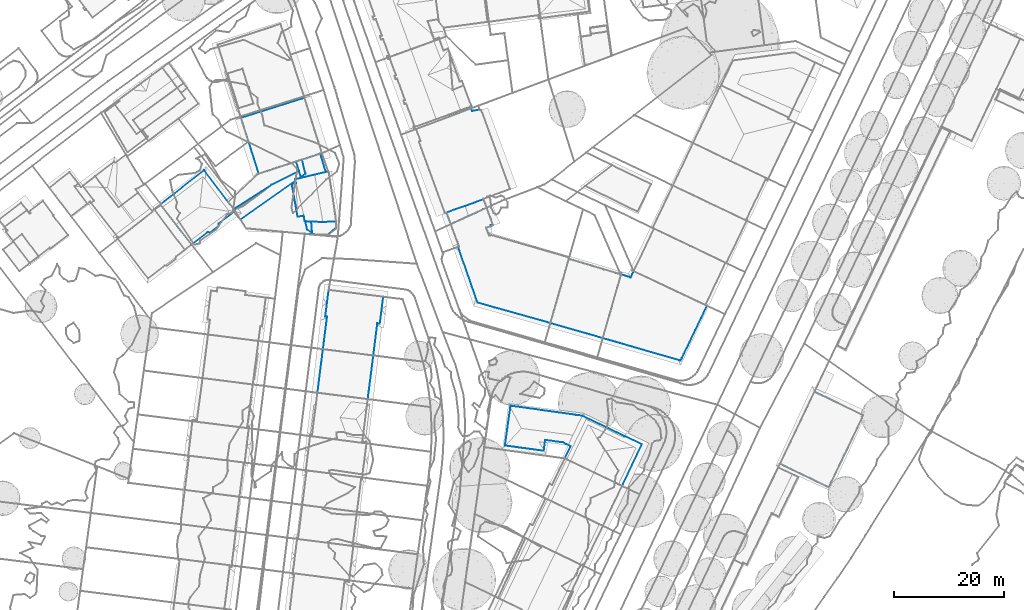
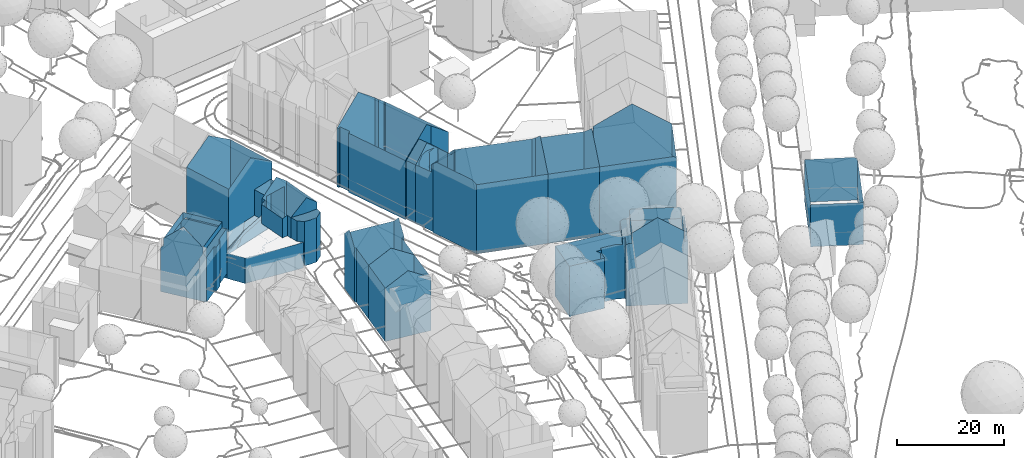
# Not in any storey, part 36 of 494: 11 walls.
"""IFC2X3 model written with IfcOpenShell, lengths in metres."""

from ifc_helpers import new_model, si_unit, frame, origin_with_axes, place, context, subcontext, project, faceted_brep, element, save


model = new_model("IFC2X3")

# Units and contexts
model_context = context("Model", 3, precision=1e-05, world=origin_with_axes())
body_context = subcontext(model_context, "Body", "Model", "MODEL_VIEW")
ifc_project = project(units=[si_unit("AREAUNIT", "SQUARE_METRE"), si_unit("LENGTHUNIT", "METRE")], contexts=[model_context])

# Walls
wall_1_placement = place(None, frame((497.3297320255, 81.7703160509, 498.9665), z_axis=(0.0, 0.0, 1.0), x_axis=(1.0, 0.0, 0.0)))
element("IfcWall", 1, at=wall_1_placement, Name="Wall 0", context=body_context, shape_type="Brep", body=[
    faceted_brep([(21.7360000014, 1.4785000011, 14.2666), (21.8530000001, 1.7226999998, 14.2666), (21.8530000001, 1.7226999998, 14.0236), (24.9849999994, 0.2266000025, 14.2666), (21.3509999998, -7.369099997, 14.2666), (24.9849999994, 0.2266000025, 0.0), (10.9070000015, -2.3632999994, 13.9726), (11.4790000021, -1.1688999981, 13.9696), (11.3340000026, -1.4706999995, 5.5295), (10.9070000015, -2.3632999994, 0.0), (11.9830000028, -0.1132999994, 10.473), (11.9830000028, -0.1132999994, 13.9666), (11.9830000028, -0.1132999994, 3.4866), (11.9830000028, -0.1132999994, 0.0), (10.9480000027, -2.369099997, 14.0036), (10.9480000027, -2.369099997, 0.0), (0.9920000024, 6.9688000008, 11.5129), (1.0340000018, 7.2675999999, 11.3719), (0.9920000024, 6.9697000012, 0.0), (7.3410000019, 1.0186000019, 0.0), (7.3410000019, 1.0186000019, 12.4818), (7.319000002, 0.8516000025, 0.0), (7.3120000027, 0.8008000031, 9.2661), (7.2840000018, 0.5957000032, 12.2968), (7.3120000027, 0.8008000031, 3.0257), (11.5150000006, 0.1104000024, 12.3228), (11.5160000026, 0.1104000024, 13.5567), (12.3940000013, 1.9346000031, 13.1607), (14.0810000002, 5.4346000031, 13.5567), (14.0810000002, 5.4346000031, 11.4409), (23.9020000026, -0.3983999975, 16.6274), (21.932, -4.4891999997, 16.6284), (23.9020000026, -0.3983999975, 14.2666), (20.6960000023, -7.0546999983, 14.2666), (13.5439999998, 0.5244000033, 16.6474), (15.1330000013, 3.8252000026, 16.6474), (11.9240000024, -2.8388999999, 14.2666), (10.5109999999, 0.5908000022, 12.4738), (11.5160000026, 0.1104000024, 0.0), (10.5109999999, 0.5908000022, 0.0), (12.9900000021, 5.6045000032, 11.4279), (12.9900000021, 5.6045000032, 0.0), (1.0340000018, 7.2675999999, 0.0), (14.0270000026, 5.4600000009, 0.0), (14.0270000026, 5.4600000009, 11.4319), (14.6390000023, 5.1670000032, 0.0), (21.8530000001, 1.7226999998, 0.0), (14.6390000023, 5.1670000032, 14.0466), (9.7280000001, 0.6963, 12.4758), (9.7280000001, 0.6963, 0.0), (16.2129999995, -4.8993999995, 19.9271), (11.9240000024, -2.8388999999, 16.6474), (20.6960000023, -7.0546999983, 16.6284), (21.3509999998, -7.369099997, 0.0), (16.2129999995, -4.8993999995, 0.0), (11.9240000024, -2.8388999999, 0.0), (11.2479999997, -2.5136999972, 14.2666), (11.2479999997, -2.5136999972, 0.0), (20.6960000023, -7.0546999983, 0.0), (15.4460000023, 3.6748000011, 16.8864), (15.1330000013, 3.8252000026, 14.2666), (21.5340000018, 0.7432000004, 16.8864), (21.5329999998, 0.7432000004, 14.2666), (23.5510000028, -0.2294999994, 16.8863), (6.2120000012, 0.7344000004, 12.2968), (7.2840000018, 0.5957000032, 11.5619), (0.0, 0.0, 11.4509), (0.2730000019, 1.9199000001, 11.4679), (0.0, 0.0, 8.5732), (0.5650000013, 3.9726999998, 0.0), (7.0950000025, -0.8056999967, 11.5669), (7.075000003, -0.9530999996, 11.4809), (7.075000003, -0.9530999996, 0.0), (6.9140000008, -0.931599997, 11.4689), (0.0540000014, -0.0067999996, 11.4879), (6.9140000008, -0.931599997, 0.0), (0.0, 0.0, 5.6944), (0.0540000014, -0.0067999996, 0.0), (0.0, 0.0, 0.0)], [[[0, 1, 2]], [[3, 4, 5]], [[6, 7, 8]], [[6, 8, 9]], [[10, 8, 11]], [[12, 8, 10]], [[12, 13, 8]], [[8, 13, 9]], [[14, 6, 15]], [[16, 17, 18]], [[19, 20, 21]], [[22, 20, 23]], [[24, 20, 22]], [[24, 21, 20]], [[25, 26, 27]], [[27, 28, 29]], [[28, 27, 26]], [[30, 31, 32]], [[31, 33, 32]], [[34, 35, 36]], [[11, 26, 25]], [[25, 37, 10]], [[10, 37, 12]], [[25, 10, 11]], [[12, 38, 13]], [[38, 12, 39]], [[37, 39, 12]], [[40, 41, 42]], [[40, 43, 41]], [[43, 40, 44]], [[40, 42, 17]], [[45, 29, 46]], [[44, 29, 45]], [[43, 44, 45]], [[29, 28, 47]], [[2, 1, 3]], [[2, 46, 29]], [[2, 5, 46]], [[5, 2, 3]], [[2, 29, 47]], [[37, 48, 49]], [[49, 39, 37]], [[48, 20, 49]], [[49, 20, 19]], [[33, 50, 51]], [[52, 50, 33]], [[4, 33, 53]], [[51, 36, 33]], [[33, 36, 54]], [[36, 14, 55]], [[14, 36, 56]], [[57, 14, 15]], [[53, 33, 58]], [[55, 54, 36]], [[57, 55, 14]], [[33, 54, 58]], [[35, 59, 60]], [[60, 59, 61]], [[61, 62, 60]], [[63, 30, 62]], [[63, 62, 61]], [[30, 32, 62]], [[23, 64, 65]], [[66, 67, 68]], [[69, 68, 67]], [[18, 69, 16]], [[67, 16, 69]], [[70, 22, 65]], [[22, 70, 71]], [[22, 71, 24]], [[65, 22, 23]], [[72, 24, 71]], [[24, 72, 21]], [[68, 73, 74]], [[71, 73, 72]], [[75, 72, 73]], [[74, 66, 68]], [[76, 75, 73]], [[76, 77, 75]], [[77, 76, 78]], [[76, 73, 68]], [[4, 53, 5]], [[8, 7, 11]], [[6, 9, 15]], [[18, 17, 42]], [[52, 33, 31]], [[34, 36, 51]], [[35, 60, 36]], [[76, 68, 69]], [[69, 78, 76]]]),
])
wall_2_placement = place(None, frame((547.5007320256, 78.432416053, 499.3594), z_axis=(0.0, 0.0, 1.0), x_axis=(1.0, 0.0, 0.0)))
element("IfcWall", 2, at=wall_2_placement, Name="Wall 0", context=body_context, shape_type="Brep", body=[
    faceted_brep([(6.2900000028, 13.1523999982, 0.0), (6.2900000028, 13.1523999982, 9.6691), (6.3900000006, 13.1044999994, 9.7081), (0.0, 0.0, 9.5861), (1.5730000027, 3.2881000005, 9.6061), (4.7170000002, 9.8642999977, 9.6481), (9.6669999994, 11.5263999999, 0.0), (9.3850000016, 11.6620999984, 9.7341), (12.2080000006, 10.3037, 5.7864), (14.4840000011, 9.2071000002, 9.7791), (15.2149999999, 8.8554999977, 0.0), (15.2149999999, 8.8554999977, 9.4971), (12.0580000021, 2.2831999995, 9.5441), (12.6610000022, 3.5390999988, 0.0), (8.9290000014, -4.2294999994, 9.5901), (8.9040000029, -4.2802000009, 0.0), (8.9040000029, -4.2802000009, 9.5661), (4.4020000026, -2.1152000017, 9.6051), (0.1460000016, -0.0692999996, 9.6421), (0.0, 0.0, 0.0), (3.1449999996, 6.5762000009, 9.6271)], [[[0, 1, 2]], [[0, 3, 4]], [[0, 5, 1]], [[6, 7, 8]], [[2, 6, 0]], [[8, 7, 9]], [[10, 6, 8]], [[11, 10, 8]], [[10, 11, 12]], [[12, 13, 10]], [[14, 15, 12]], [[12, 15, 13]], [[16, 17, 15]], [[17, 18, 19]], [[3, 19, 18]], [[20, 0, 4]], [[19, 3, 0]], [[0, 20, 5]], [[7, 6, 2]], [[9, 11, 8]], [[14, 16, 15]], [[17, 19, 15]]]),
])
wall_3_placement = place(None, frame((463.1237320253, 91.3914160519, 499.4055), z_axis=(0.0, 0.0, 1.0), x_axis=(1.0, 0.0, 0.0)))
element("IfcWall", 3, at=wall_3_placement, Name="Wall 0", context=body_context, shape_type="Brep", body=[
    faceted_brep([(1.6009999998, 7.875, 12.5998), (5.5230000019, 7.3867000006, 0.0), (1.6009999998, 7.875, 0.0), (4.5810000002, -0.5810000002, 14.9506), (3.2930000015, -0.4179999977, 14.1796), (4.5810000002, -0.5810000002, 0.0), (10.1920000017, 6.8047000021, 0.0), (9.643000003, 2.4756000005, 12.1608), (9.939000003, 4.8125, 0.0), (10.1920000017, 6.8047000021, 12.1368), (9.182, -1.1649999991, 0.0), (5.5230000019, 7.3867000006, 14.9476), (9.182, -1.1649999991, 12.1808), (0.0, 0.0, 12.1988), (0.5210000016, 4.120099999, 12.2208), (0.0, 0.0, 0.0), (0.6810000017, 5.3896999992, 0.0), (0.7589999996, 6.0058999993, 12.2308), (1.0050000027, 7.9501999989, 12.2408), (1.0050000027, 7.9501999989, 0.0), (3.2930000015, -0.4179999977, 0.0)], [[[0, 1, 2]], [[3, 4, 5]], [[6, 7, 8]], [[9, 7, 6]], [[8, 7, 10]], [[11, 9, 1]], [[10, 12, 3]], [[5, 10, 3]], [[13, 14, 15]], [[15, 14, 16]], [[17, 18, 16]], [[19, 16, 18]], [[4, 15, 20]], [[15, 4, 13]], [[18, 2, 19]], [[2, 18, 0]], [[11, 1, 0]], [[4, 20, 5]], [[12, 10, 7]], [[9, 6, 1]], [[14, 17, 16]]]),
])
wall_4_placement = place(None, frame((464.128732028, 99.3416160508, 499.4055), z_axis=(0.0, 0.0, 1.0), x_axis=(1.0, 0.0, 0.0)))
element("IfcWall", 4, at=wall_4_placement, Name="Wall 0", context=body_context, shape_type="Brep", body=[
    faceted_brep([(10.9979999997, 9.5762000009, 0.0), (1.0449999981, 10.818400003, 0.0), (1.0449999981, 10.818400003, 12.6188), (0.7520000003, 8.501000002, 0.0), (0.75, 8.4863000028, 8.0942), (0.7929999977, 8.8242000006, 14.6066), (10.9979999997, 9.5762000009, 12.6898), (10.7149999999, 7.3154000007, 14.9436), (10.7149999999, 7.3154000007, 0.0), (0.5810000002, 7.1425999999, 3.3077), (0.6289999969, 7.5234000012, 13.9677), (0.6699999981, 7.8545000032, 6.8314), (0.430999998, 5.9570000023, 0.0), (0.430999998, 5.9570000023, 12.3798), (0.75, 8.4863000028, 14.9436), (0.7479999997, 5.9170000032, 0.0), (0.7479999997, 5.9170000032, 12.3768), (0.7329999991, 5.8018000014, 0.0), (0.7339999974, 5.8096000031, 12.2678), (9.930999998, 4.7314000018, 0.0), (9.930999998, 4.7314000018, 12.2698), (9.9199999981, 4.6475000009, 12.1848), (9.9120000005, 4.5830000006, 0.0), (9.9100000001, 4.568400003, 12.1058), (10.3770000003, 4.6738000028, 12.2658), (10.3770000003, 4.6738000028, 0.0), (9.186999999, -1.1454999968, 12.1368), (9.186999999, -1.1454999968, 0.0), (4.5179999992, -0.5625, 14.9476), (4.5179999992, -0.5625, 0.0), (0.129999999, 1.0313000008, 0.0), (0.0, 0.0, 0.0), (0.0, 0.0, 12.2408), (0.1529999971, 1.2061000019, 12.2468), (0.2229999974, 1.7637000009, 4.5936), (0.5969999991, -0.0741999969, 12.5998), (0.5969999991, -0.0741999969, 0.0), (0.3019999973, 2.3877000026, 12.2528), (0.4969999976, 3.9287, 12.2598), (0.3509999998, 2.7754000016, 3.0537)], [[[0, 1, 2]], [[3, 4, 5]], [[5, 2, 3]], [[1, 3, 2]], [[0, 6, 7]], [[7, 8, 0]], [[9, 10, 11]], [[12, 13, 10]], [[12, 10, 9]], [[14, 5, 10]], [[5, 4, 10]], [[10, 4, 11]], [[11, 4, 9]], [[4, 3, 9]], [[9, 3, 12]], [[15, 16, 13]], [[13, 12, 15]], [[17, 18, 15]], [[16, 15, 18]], [[19, 20, 21]], [[19, 21, 22]], [[23, 22, 21]], [[24, 20, 25]], [[20, 19, 25]], [[8, 7, 25]], [[7, 24, 25]], [[26, 22, 23]], [[22, 26, 27]], [[27, 26, 28]], [[29, 27, 28]], [[30, 31, 32]], [[33, 34, 30]], [[35, 31, 36]], [[31, 35, 32]], [[34, 37, 17]], [[17, 37, 38]], [[38, 18, 17]], [[30, 34, 39]], [[39, 17, 30]], [[39, 34, 17]], [[28, 35, 29]], [[6, 0, 2]], [[32, 33, 30]], [[37, 34, 33]], [[35, 36, 29]]]),
])
wall_5_placement = place(None, frame((449.1887320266, 141.5721160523, 498.8726), z_axis=(0.0, 0.0, 1.0), x_axis=(1.0, 0.0, 0.0)))
element("IfcWall", 5, at=wall_5_placement, Name="Wall 0", context=body_context, shape_type="Brep", body=[
    faceted_brep([(14.7690000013, -6.4512000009, 14.8616), (11.8090000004, -7.4131000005, 16.9184), (14.7690000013, -6.4512000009, 0.0), (11.8139999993, -7.4111999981, 0.0), (9.0929999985, -8.2949000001, 0.0), (9.0549999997, -8.308600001, 18.8312), (11.5839999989, 3.6523000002, 14.8606), (12.8099999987, -0.2373000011, 14.8606), (11.5839999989, 3.6523000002, 0.0), (12.9770000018, -0.7685999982, 0.0), (5.8530000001, 1.8456999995, 18.8312), (5.8530000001, 1.8456999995, 0.0), (7.4050000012, -8.8447999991, 17.6903), (6.0689999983, -9.2782999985, 0.0), (3.2380000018, -10.1983000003, 14.8096), (3.2380000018, -10.1983000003, 0.0), (0.0, 0.0, 14.7966), (1.254999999, -3.9532000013, 14.8016), (2.0240000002, -6.3740999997, 0.0), (0.8090000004, -2.5498000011, 0.0), (0.0, 0.0, 0.0)], [[[0, 1, 2]], [[1, 3, 2]], [[1, 4, 3]], [[5, 4, 1]], [[6, 7, 8]], [[8, 7, 9]], [[2, 9, 7]], [[10, 8, 11]], [[8, 10, 6]], [[5, 12, 4]], [[12, 13, 4]], [[12, 14, 13]], [[13, 14, 15]], [[11, 16, 10]], [[15, 14, 17]], [[18, 15, 17]], [[18, 17, 19]], [[19, 17, 20]], [[20, 17, 16]], [[0, 2, 7]], [[20, 16, 11]]]),
])
wall_6_placement = place(None, frame((446.8647320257, 126.2293160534, 498.9746), z_axis=(0.0, 0.0, 1.0), x_axis=(1.0, 0.0, 0.0)))
element("IfcWall", 6, at=wall_6_placement, Name="Wall 0", context=body_context, shape_type="Brep", body=[
    faceted_brep([(19.637000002, -3.5371000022, -0.04), (19.637000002, -3.5371000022, 0.4289), (17.2440000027, -3.6895000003, 0.4289), (17.2440000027, -3.6895000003, -0.04), (15.131000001, -3.5928000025, 0.035), (15.131000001, -3.5928000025, 0.4289), (13.9420000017, -3.5371000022, 0.035), (13.9420000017, -3.5371000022, -0.04), (13.7829999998, -2.5303000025, 0.035), (18.3520000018, 5.3046999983, 11.9029), (18.2550000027, 5.5810999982, -0.04), (18.2550000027, 5.5810999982, 11.9468), (18.3520000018, 5.3046999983, 5.9094), (18.3520000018, 5.3046999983, 8.9061), (18.3520000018, 5.3046999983, 2.9127), (18.3520000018, 5.3046999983, -0.04), (12.3340000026, 3.4003999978, -0.04), (12.3340000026, 3.4003999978, 0.035), (12.2490000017, 3.8838, 0.0), (12.2490000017, 3.8838, 0.035), (12.2060000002, 4.1317999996, 0.0), (12.2060000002, 4.1317999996, -0.04), (13.7829999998, -2.5303000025, -0.04), (12.6410000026, -2.6982000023, -0.04), (12.6410000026, -2.6982000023, 0.035), (11.5960000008, 3.2714999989, 0.035), (11.5960000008, 3.2714999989, -0.04), (12.9100000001, 5.6386999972, 5.8744), (13.2910000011, 4.3905999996, 5.8744), (13.2910000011, 4.3905999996, 10.88), (12.3839999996, 7.3612999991, 10.88), (12.3839999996, 7.3612999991, 4.9995), (12.9100000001, 5.6386999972, 4.9995), (16.7880000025, 8.7919999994, 10.88), (17.8000000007, 5.4716999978, 10.88), (16.7880000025, 8.7919999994, 0.035), (13.5, -5.8047000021, 5.8744), (3.3000000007, -4.8496000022, 5.8744), (13.5, -5.8047000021, 0.035), (15.3060000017, -5.8905999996, 5.8744), (15.3060000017, -5.8905999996, 0.035), (16.5760000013, -5.9970999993, 10.556), (15.5030000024, -5.9033000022, 10.556), (16.5760000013, -5.9970999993, 0.4289), (18.1380000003, -5.9580000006, 10.556), (18.1380000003, -5.9580000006, 0.4289), (19.6750000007, -4.6504000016, 10.556), (19.6750000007, -4.6504000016, 0.4289), (15.5030000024, -5.9033000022, 0.4289), (15.2950000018, -5.7412, 5.8744), (15.2950000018, -5.7412, 0.4289), (14.3969999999, -5.0459000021, 10.556), (14.3969999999, -5.0459000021, 5.8744), (19.637000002, -3.5371000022, 10.556), (19.637000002, -3.5371000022, 12.1198), (17.2440000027, -3.6895000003, 14.0676), (17.2440000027, -3.6895000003, 10.556), (14.0300000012, -3.5419999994, 10.556), (13.9420000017, -3.5371000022, 10.556), (13.9420000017, -3.5371000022, 5.8744), (14.0300000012, -3.5419999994, 5.8744), (13.7829999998, -2.5303000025, 10.556), (12.3340000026, 3.4003999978, 10.921), (12.2060000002, 4.1317999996, 10.921), (12.3340000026, 3.4003999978, 5.8744), (12.6410000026, -2.6982000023, 10.268), (13.7829999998, -2.5303000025, 5.8744), (11.5960000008, 3.2714999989, 10.268), (12.6410000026, -2.6982000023, 5.8744), (11.5960000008, 3.2714999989, 5.8744), (7.9330000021, 3.1122999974, 5.8744), (7.9330000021, 3.1122999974, 4.9995), (0.0, 0.0, 4.9995), (5.4290000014, 5.1015999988, 4.9995), (0.0, 0.0, 0.0), (1.0080000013, -1.3076000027, 5.8744), (1.0080000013, -1.3076000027, 4.9995), (2.2300000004, -3.1816000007, 0.0), (14.074000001, 5.1688999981, 0.035), (12.8040000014, 4.2743999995, 0.035), (14.074000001, 5.1688999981, 0.0), (13.4530000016, 7.7080000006, 0.035), (13.4530000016, 7.7080000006, 0.0), (19.6130000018, -2.8115000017, 10.556), (19.6130000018, -2.8115000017, -0.04), (19.6130000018, -2.8115000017, 12.0268), (12.8040000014, 4.2743999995, 0.0), (15.7310000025, 4.9726999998, 0.035), (15.7310000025, 4.9726999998, -0.04), (17.8000000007, 5.4716999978, 0.035), (12.2060000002, 4.1317999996, 5.8744), (15.7310000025, 4.9726999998, 14.0676), (15.7310000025, 4.9726999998, 10.88), (5.4290000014, 5.1015999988, 0.0), (2.2300000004, -3.1816000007, 0.035), (3.3000000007, -4.8496000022, 0.035), (1.2600000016, -1.6699000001, 5.8744), (1.2600000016, -1.6699000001, 0.0), (1.2530000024, -1.625, 5.8744), (1.2530000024, -1.625, 0.0), (18.8470000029, 2.1182000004, 11.9148), (18.5840000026, 3.8134999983, 11.8979), (18.8470000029, 2.1182000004, -0.04), (19.0940000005, 0.5263999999, -0.04), (18.5840000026, 3.8134999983, -0.04), (19.0940000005, 0.5263999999, 11.9398), (19.3660000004, -1.2197000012, 11.9778), (19.3660000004, -1.2197000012, -0.04)], [[[0, 1, 2]], [[2, 3, 0]], [[3, 2, 4]], [[4, 2, 5]], [[4, 6, 7]], [[4, 7, 3]], [[6, 8, 7]], [[9, 10, 11]], [[12, 10, 13]], [[14, 15, 10]], [[16, 17, 18]], [[18, 17, 19]], [[18, 20, 21]], [[18, 21, 16]], [[22, 8, 23]], [[24, 23, 8]], [[24, 25, 23]], [[26, 25, 17]], [[17, 16, 26]], [[27, 28, 29]], [[27, 30, 31]], [[30, 27, 29]], [[27, 31, 32]], [[33, 34, 35]], [[36, 37, 38]], [[39, 36, 40]], [[41, 42, 43]], [[44, 41, 45]], [[46, 44, 47]], [[48, 49, 50]], [[49, 48, 42]], [[49, 51, 52]], [[51, 49, 42]], [[53, 54, 55]], [[55, 56, 53]], [[57, 56, 55]], [[57, 58, 59]], [[58, 57, 55]], [[57, 59, 60]], [[58, 61, 59]], [[62, 63, 64]], [[61, 65, 66]], [[65, 67, 68]], [[67, 64, 69]], [[50, 4, 5]], [[39, 40, 50]], [[39, 50, 49]], [[70, 27, 71]], [[51, 57, 52]], [[72, 73, 74]], [[75, 70, 76]], [[19, 77, 18]], [[78, 79, 80]], [[81, 78, 82]], [[83, 0, 84]], [[0, 83, 1]], [[83, 47, 1]], [[85, 54, 53]], [[47, 53, 46]], [[47, 83, 53]], [[53, 83, 85]], [[21, 20, 86]], [[86, 79, 87]], [[21, 86, 88]], [[87, 88, 86]], [[88, 87, 89]], [[88, 89, 10]], [[29, 28, 90]], [[29, 63, 91]], [[92, 91, 11]], [[91, 92, 29]], [[92, 11, 34]], [[10, 89, 34]], [[11, 10, 34]], [[29, 90, 63]], [[93, 31, 82]], [[30, 33, 31]], [[31, 35, 81]], [[35, 31, 33]], [[81, 82, 31]], [[94, 95, 37]], [[94, 96, 97]], [[96, 94, 37]], [[94, 97, 77]], [[96, 98, 97]], [[99, 98, 76]], [[76, 98, 75]], [[72, 74, 76]], [[100, 12, 13]], [[9, 101, 13]], [[102, 12, 103]], [[15, 14, 104]], [[102, 104, 14]], [[14, 12, 102]], [[100, 13, 101]], [[105, 103, 12]], [[106, 85, 83]], [[105, 106, 83]], [[107, 103, 83]], [[107, 83, 84]], [[103, 105, 83]], [[105, 12, 100]], [[8, 22, 7]], [[10, 9, 13]], [[12, 14, 10]], [[25, 26, 23]], [[34, 89, 35]], [[37, 95, 38]], [[36, 38, 40]], [[42, 48, 43]], [[41, 43, 45]], [[44, 45, 47]], [[61, 66, 59]], [[63, 90, 64]], [[65, 68, 66]], [[67, 69, 68]], [[62, 64, 67]], [[40, 4, 50]], [[27, 32, 71]], [[57, 60, 52]], [[73, 93, 74]], [[70, 71, 76]], [[94, 77, 19]], [[79, 86, 80]], [[78, 80, 82]], [[73, 31, 93]], [[98, 99, 97]], [[74, 99, 76]]]),
])
wall_7_placement = place(None, frame((434.486732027, 125.7898160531, 500.0045), z_axis=(0.0, 0.0, 1.0), x_axis=(1.0, 0.0, 0.0)))
element("IfcWall", 7, at=wall_7_placement, Name="Wall 0", context=body_context, shape_type="Brep", body=[
    faceted_brep([(7.754999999, 5.0790999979, 12.3068), (8.1330000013, 4.5751999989, 11.2489), (7.754999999, 5.0790999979, 10.626), (12.5219999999, -1.2666000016, 12.3068), (12.3649999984, -1.057599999, 11.2489), (12.5219999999, -1.2666000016, 11.0009), (5.2340000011, -6.7412, 11.0019), (5.2349999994, -6.7402000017, 12.3068), (2.868999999, -3.6942999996, 14.6536), (2.8359999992, -3.6513000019, 15.9985), (2.8359999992, -3.6513000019, 14.5996), (0.3669999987, -0.4715999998, 12.3068), (0.3669999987, -0.4715999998, 10.626), (0.0, 0.0, 10.0361), (3.0920000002, 2.4208999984, 9.9591), (0.0, 0.0, 7.5273), (0.0, 0.0, 3.7637), (0.0, 0.0, 0.0), (7.9609999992, 6.2324999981, 0.0), (2.6539999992, 2.0781999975, 0.0), (7.9609999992, 6.2324999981, 2.3108), (7.9609999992, 6.2324999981, 4.8196), (8.6070000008, -5.0859000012, 0.0), (9.0399999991, -5.1552000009, 10.037), (8.6070000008, -5.0859000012, 10.336), (10.6030000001, -3.941399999, 10.067), (10.6030000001, -3.941399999, 0.0), (10.6440000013, -3.503899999, 7.7813), (10.6440000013, -3.503899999, 2.5938), (10.6440000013, -3.503899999, 0.0), (5.7010000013, -7.3418000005, 7.6973), (5.7010000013, -7.3418000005, 10.281), (5.7010000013, -7.3418000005, 0.0), (7.9609999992, 6.2324999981, 7.3283), (13.631000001, -1.1854999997, 10.213), (13.631000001, -1.1854999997, 0.0), (7.9609999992, 6.2324999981, 9.8371), (8.2419999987, 5.8652999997, 10.295), (13.4769999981, -1.3037, 0.0), (13.4769999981, -1.3037, 10.429), (10.6440000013, -3.503899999, 10.375), (2.868999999, -3.6942999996, 0.0), (9.0399999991, -5.1552000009, 0.0)], [[[0, 1, 2]], [[1, 0, 3]], [[4, 3, 5]], [[3, 4, 1]], [[6, 7, 8]], [[8, 9, 10]], [[9, 8, 7]], [[3, 7, 5]], [[11, 2, 12]], [[13, 14, 15]], [[15, 14, 16]], [[17, 16, 14]], [[14, 18, 19]], [[14, 19, 17]], [[20, 18, 14]], [[20, 14, 21]], [[22, 23, 24]], [[25, 23, 26]], [[27, 25, 28]], [[29, 28, 25]], [[25, 26, 29]], [[30, 24, 31]], [[22, 30, 32]], [[21, 33, 34]], [[20, 21, 35]], [[33, 36, 37]], [[35, 21, 34]], [[18, 20, 35]], [[33, 37, 34]], [[28, 38, 34]], [[28, 29, 38]], [[38, 35, 34]], [[34, 39, 27]], [[27, 39, 40]], [[34, 27, 28]], [[30, 31, 16]], [[16, 17, 30]], [[32, 30, 41]], [[30, 17, 41]], [[16, 31, 6]], [[15, 6, 10]], [[9, 11, 10]], [[10, 11, 12]], [[15, 12, 13]], [[16, 6, 15]], [[12, 15, 10]], [[6, 8, 10]], [[7, 6, 5]], [[0, 2, 11]], [[36, 33, 14]], [[33, 21, 14]], [[42, 23, 22]], [[23, 42, 26]], [[40, 25, 27]], [[22, 24, 30]]]),
])
wall_8_placement = place(None, frame((487.4747320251, 122.1688160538, 499.2035), z_axis=(0.0, 0.0, 1.0), x_axis=(1.0, 0.0, 0.0)))
element("IfcWall", 8, at=wall_8_placement, Name="Wall 0", context=body_context, shape_type="Brep", body=[
    faceted_brep([(6.8380000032, -1.6797000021, 15.1806), (6.8380000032, -1.6797000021, 14.2777), (6.0670000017, -1.9502000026, 15.1266), (1.3260000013, -3.6104000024, 15.1696), (3.0880000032, -2.9942000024, 15.1116), (1.3260000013, -3.6104000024, 13.4777), (6.6420000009, -1.1612000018, 0.0), (6.7140000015, -1.3497000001, 14.3027), (6.8460000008, -1.7012000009, 0.0), (7.126000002, -0.4288000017, 0.0), (6.8620000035, -0.5254000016, 13.8677), (6.4590000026, -0.6719000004, 0.0), (7.131000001, -0.4268000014, 13.6107), (6.4590000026, -0.6719000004, 14.2537), (6.5840000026, -1.004900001, 14.3007), (6.5460000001, -0.9053000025, 3.5477), (7.2780000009, -0.3740999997, 0.0), (7.3110000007, -0.3624000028, 13.4137), (7.25, -0.384800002, 13.4797), (7.1791000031, -0.4101999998, 13.5587), (7.2170000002, -0.3965000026, 3.3087), (7.2820000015, -0.2120000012, 13.3967), (7.3110000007, -0.3624000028, 0.0), (7.2820000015, -0.2120000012, 0.0), (6.5460000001, 2.9930999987, 13.1358), (6.9280000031, 1.9461999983, 13.1018), (6.5460000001, 2.9930999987, 0.0), (7.200000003, 1.2010999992, 13.0778), (7.1860000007, 1.240199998, 0.0), (5.9079999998, 2.7010999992, 13.7527), (5.9079999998, 2.7010999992, 0.0), (7.3220000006, 0.8671000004, 4.8936), (7.3490000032, 0.7918999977, 13.0868), (7.6860000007, -0.1328999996, 0.0), (7.6860000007, -0.1328999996, 13.1068), (3.2160000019, 1.4706999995, 16.3535), (3.2160000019, 1.4706999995, 0.0), (1.2080000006, -3.2862000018, 0.0), (1.2060000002, -3.2823000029, 13.4467), (0.4120000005, -1.121100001, 13.3897), (0.0, 0.0, 0.0), (0.0, 0.0, 13.3598), (1.1850000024, 0.5418999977, 14.4666), (1.3260000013, -3.6094000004, 0.0), (7.0080000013, -2.1328999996, 15.6295), (7.0670000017, -2.1124000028, 15.6325), (7.0080000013, -2.1328999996, 0.0), (1.4070000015, -3.8311000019, 15.3826), (1.4980000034, -4.0782000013, 0.0), (1.4980000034, -4.0782000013, 15.6225), (3.8200000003, -11.2813000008, 16.4034), (3.8200000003, -11.2823000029, 0.0), (4.5580000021, -13.3887000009, 16.3984), (4.5580000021, -13.389700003, 0.0), (3.0820000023, -9.1729000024, 16.4074), (2.3440000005, -7.0665000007, 16.4114), (3.0820000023, -9.1739000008, 0.0), (2.3440000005, -7.0665000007, 0.0), (1.5820000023, -4.8907000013, 0.0), (1.6060000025, -4.9581000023, 16.4155), (4.8840000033, -14.3213, 15.7945), (4.8840000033, -14.3213, 0.0), (6.6380000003, -14.8155000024, 0.0), (7.9800000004, -15.192400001, 15.8085), (7.995000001, -15.1963, 0.0), (19.8289999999, -12.2071000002, 20.415), (18.7540000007, -15.9415000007, 17.5013), (19.8289999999, -12.2071000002, 0.0), (14.4980000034, -17.0254000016, 15.8235), (11.8010000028, -16.2666000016, 0.0), (18.1469999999, -18.0508000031, 0.0), (18.1469999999, -18.0508000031, 15.8315), (18.7540000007, -15.9415000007, 0.0), (7.3830000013, -1.996100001, 15.4775), (7.3830000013, -1.996100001, 0.0), (7.0620000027, -2.1143000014, 0.0), (20.8560000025, -8.6416000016, 0.0), (21.5870000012, -6.1016000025, 15.4225), (20.8560000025, -8.6416000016, 17.4713), (21.5870000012, -6.1016000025, 0.0), (10.9340000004, -3.0235000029, 15.4645), (13.1740000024, -3.6700000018, 15.4555), (17.3110000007, -4.8663000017, 0.0), (10.9340000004, -3.0225000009, 0.0), (6.6340000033, -1.1387000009, 14.3187), (0.5400000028, -1.4708000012, 0.0), (1.319000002, -4.1387000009, 15.6265), (1.319000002, -4.1387000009, 0.0), (18.1510000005, -5.1094000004, 15.4365)], [[[0, 1, 2]], [[3, 4, 5]], [[6, 7, 1]], [[1, 8, 6]], [[9, 10, 11]], [[9, 12, 10]], [[13, 11, 10]], [[11, 14, 15]], [[13, 14, 11]], [[15, 14, 6]], [[15, 6, 11]], [[16, 17, 18]], [[19, 16, 18]], [[20, 16, 19]], [[12, 9, 19]], [[20, 19, 9]], [[20, 9, 16]], [[21, 22, 23]], [[24, 25, 26]], [[27, 28, 25]], [[29, 26, 30]], [[26, 29, 24]], [[31, 32, 33]], [[27, 32, 28]], [[31, 28, 32]], [[28, 31, 33]], [[33, 32, 34]], [[33, 34, 21]], [[23, 33, 21]], [[35, 29, 36]], [[37, 38, 39]], [[40, 41, 42]], [[42, 36, 40]], [[43, 38, 37]], [[43, 5, 38]], [[44, 45, 46]], [[1, 46, 8]], [[44, 46, 0]], [[47, 48, 49]], [[3, 5, 47]], [[48, 47, 43]], [[47, 5, 43]], [[50, 51, 52]], [[53, 52, 51]], [[54, 55, 56]], [[56, 55, 57]], [[54, 56, 51]], [[58, 57, 55]], [[58, 55, 59]], [[60, 53, 61]], [[62, 63, 60]], [[64, 63, 62]], [[60, 61, 62]], [[65, 66, 67]], [[68, 69, 70]], [[68, 70, 71]], [[63, 69, 68]], [[64, 69, 63]], [[66, 71, 72]], [[71, 70, 72]], [[73, 74, 75]], [[76, 77, 78]], [[76, 79, 77]], [[73, 80, 74]], [[81, 82, 83]], [[81, 83, 74]], [[79, 82, 77]], [[78, 67, 76]], [[84, 7, 14]], [[6, 14, 7]], [[22, 17, 16]], [[17, 22, 21]], [[26, 25, 28]], [[29, 30, 36]], [[37, 39, 85]], [[41, 40, 39]], [[85, 39, 40]], [[35, 36, 42]], [[46, 45, 75]], [[0, 46, 1]], [[86, 48, 87]], [[48, 86, 49]], [[59, 87, 58]], [[86, 87, 59]], [[51, 50, 54]], [[52, 53, 60]], [[66, 72, 67]], [[73, 75, 45]], [[81, 88, 82]], [[80, 81, 74]], [[82, 88, 77]], [[65, 67, 78]]]),
])
wall_9_placement = place(None, frame((515.185732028, 101.369916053, 499.2035), z_axis=(0.0, 0.0, 1.0), x_axis=(1.0, 0.0, 0.0)))
element("IfcWall", 9, at=wall_9_placement, Name="Wall 0", context=body_context, shape_type="Brep", body=[
    faceted_brep([(1.1889999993, 4.1543000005, 19.0971), (1.6730000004, 5.8438000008, 0.0), (1.1889999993, 4.1543000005, 0.0), (3.3249999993, 11.6152999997, 15.6515), (4.1649999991, 11.3642999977, 15.6585), (3.3249999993, 11.6152999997, 0.0), (4.4179999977, 11.2890999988, 3.9106), (5.0989999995, 11.0850000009, 0.0), (5.0739999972, 11.0927999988, 15.6665), (1.6730000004, 5.8438000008, 20.415), (5.3880000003, 11.692400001, 4.8995), (5.0989999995, 11.0850000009, 15.6835), (5.4120000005, 11.7441999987, 15.6815), (5.6270000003, 12.1952999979, 0.0), (5.6270000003, 12.1952999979, 15.6805), (12.2129999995, 9.0947000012, 20.415), (17.3959999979, 6.6543000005, 0.0), (13.987999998, -4.0449000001, 15.5875), (13.9199999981, -4.0254000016, 0.0), (14.1959999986, -4.1053999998, 15.4465), (14.6229999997, -3.2138000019, 3.8616), (14.7579999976, -2.9316000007, 15.4455), (14.4269999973, -3.6220000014, 7.7232), (14.7649999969, -2.9169999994, 0.0), (14.4509999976, -3.5732000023, 15.4465), (14.1959999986, -4.1053999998, 0.0), (17.373999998, 6.6651000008, 16.6324), (6.2300000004, -1.8016999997, 15.7885), (4.1199999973, -1.191399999, 0.0), (0.0, 0.0, 0.0), (0.0, 0.0, 15.8105), (18.9919999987, 5.9023999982, 15.4065), (17.9349999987, 3.6972999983, 0.0), (18.9919999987, 5.9023999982, 0.0), (16.8789999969, 1.4932000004, 0.0), (17.9349999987, 3.6983000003, 15.4165), (16.8789999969, 1.4932000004, 15.4265), (15.8219999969, -0.7118999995, 15.4365), (15.8219999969, -0.7118999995, 0.0), (13.731999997, -3.9717000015, 15.7614)], [[[0, 1, 2]], [[3, 4, 5]], [[5, 6, 7]], [[8, 7, 6]], [[9, 5, 1]], [[5, 9, 3]], [[10, 11, 12]], [[13, 12, 14]], [[10, 13, 7]], [[8, 11, 7]], [[13, 14, 15]], [[16, 13, 15]], [[17, 18, 19]], [[20, 21, 22]], [[21, 20, 23]], [[23, 20, 22]], [[24, 19, 22]], [[22, 25, 23]], [[15, 26, 16]], [[18, 27, 28]], [[29, 28, 27]], [[29, 30, 0]], [[2, 29, 0]], [[31, 32, 33]], [[34, 35, 36]], [[36, 37, 34]], [[37, 21, 38]], [[23, 38, 21]], [[26, 33, 16]], [[33, 26, 31]], [[9, 1, 0]], [[5, 4, 6]], [[4, 8, 6]], [[10, 7, 11]], [[10, 12, 13]], [[17, 39, 18]], [[25, 19, 18]], [[24, 22, 21]], [[19, 25, 22]], [[39, 27, 18]], [[30, 29, 27]], [[34, 37, 38]], [[35, 32, 31]], [[32, 35, 34]]]),
])
wall_10_placement = place(None, frame((505.6217320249, 104.1180160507, 499.2035), z_axis=(0.0, 0.0, 1.0), x_axis=(1.0, 0.0, 0.0)))
element("IfcWall", 10, at=wall_10_placement, Name="Wall 0", context=body_context, shape_type="Brep", body=[
    faceted_brep([(11.2370000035, 3.0957000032, 20.415), (10.7530000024, 1.4062000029, 19.0971), (11.2370000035, 3.0957000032, 0.0), (0.6070000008, 2.1093000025, 17.5013), (1.682, 5.8437000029, 0.0), (0.6070000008, 2.1093000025, 0.0), (6.3370000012, -1.8213, 0.0), (9.564000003, -2.7480999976, 15.8105), (3.9160000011, -1.125, 0.0), (5.2380000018, -1.5048999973, 15.8195), (0.0, 0.0, 15.8315), (9.564000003, -2.7480999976, 0.0), (10.7530000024, 1.4062000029, 0.0), (0.0, 0.0, 0.0), (6.4030000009, 10.8027000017, 0.0), (5.3840000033, 11.1064000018, 15.6235), (7.6700000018, 10.4248000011, 3.8976), (7.6700000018, 10.4248000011, 15.6305), (9.8210000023, 9.7832000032, 0.0), (9.8200000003, 9.7832000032, 15.6375), (11.9700000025, 9.1406000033, 15.6435), (11.9690000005, 9.1406000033, 0.0), (2.7090000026, 9.4092000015, 17.4713), (3.3710000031, 11.7080000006, 0.0), (2.7090000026, 9.4091000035, 0.0), (3.3710000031, 11.7080000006, 15.6165), (12.4010000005, 9.0127000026, 6.7213), (12.3470000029, 9.0283000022, 15.6475), (12.8890000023, 8.8672000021, 0.0), (12.8890000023, 8.8672000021, 15.6515), (1.682, 5.8437000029, 20.415)], [[[0, 1, 2]], [[3, 4, 5]], [[6, 7, 8]], [[8, 9, 10]], [[1, 11, 12]], [[7, 11, 1]], [[13, 10, 3]], [[5, 13, 3]], [[14, 15, 16]], [[16, 17, 18]], [[19, 20, 18]], [[16, 18, 14]], [[20, 21, 18]], [[22, 23, 24]], [[25, 23, 22]], [[26, 20, 27]], [[21, 20, 26]], [[28, 27, 29]], [[26, 28, 21]], [[30, 22, 4]], [[28, 29, 0]], [[2, 28, 0]], [[1, 12, 2]], [[30, 4, 3]], [[7, 9, 8]], [[7, 6, 11]], [[10, 13, 8]], [[15, 17, 16]], [[17, 19, 18]], [[23, 25, 15]], [[15, 14, 23]], [[26, 27, 28]], [[22, 24, 4]]]),
])
wall_11_placement = place(None, frame((480.6997320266, 139.8172160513, 499.2146), z_axis=(0.0, 0.0, 1.0), x_axis=(1.0, 0.0, 0.0)))
element("IfcWall", 11, at=wall_11_placement, Name="Wall 0", context=body_context, shape_type="Brep", body=[
    faceted_brep([(17.5920000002, -11.2480999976, -0.0001), (17.5920000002, -11.2480999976, 13.1857), (13.9569999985, -12.5751999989, 16.3074), (12.7259999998, -13.0243999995, -0.0001), (12.7259999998, -13.0243999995, 4.3415), (12.7259999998, -13.0243999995, 10.8529), (12.3209999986, 3.2002000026, 13.1047), (12.3209999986, 3.2002000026, 0.0), (12.1079999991, 3.1220999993, 0.0), (12.1079999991, 3.1220999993, 13.2877), (12.0560000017, 3.2675999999, 13.2867), (12.0560000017, 3.2675999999, 0.0), (10.6590000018, 3.0088, 14.4156), (10.6590000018, 3.0088, 0.0), (10.3189999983, 3.754900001, 14.4626), (10.3189999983, 3.754900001, 0.0), (0.4580000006, -0.2939999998, 0.0), (0.4580000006, -0.2939999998, 13.7376), (0.1490000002, -0.4091999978, 0.0), (1.2589999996, -2.4921999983, 13.7396), (1.2589999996, -2.4921999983, 0.0), (0.0, 0.0, 10.107), (0.1490000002, -0.4091999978, 13.4777), (0.0, 0.0, 13.4767), (0.0, 0.0, 6.7383), (0.0, 0.0, 0.0), (7.4759999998, -14.9706999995, -0.0111), (7.4759999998, -14.9706999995, -0.0001), (9.3830000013, -14.3280999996, -0.0001), (9.3830000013, -14.3280999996, -0.0111), (5.9919999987, -15.5165999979, -0.0111), (5.9919999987, -15.5165999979, -0.0001), (9.3830000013, -14.3280999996, 16.6083), (7.4759999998, -14.9706999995, 14.9875), (9.3830000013, -14.3280999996, 16.3424), (12.7259999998, -13.0243999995, 17.3643), (12.75, -13.0898999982, 17.3643), (12.7490000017, -13.0888999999, 13.1727), (13.1059999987, -14.0673999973, 13.1427), (13.1059999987, -14.0673999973, -0.0111), (13.3209999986, -14.6552999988, 13.1247), (13.3209999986, -14.6552999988, -0.0111), (12.7490000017, -13.0888999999, -0.0001), (12.7490000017, -13.0888999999, -0.0111), (6.7749999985, -17.6483999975, 13.3487), (6.2050000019, -16.0976999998, 13.3087), (6.7749999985, -17.6483999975, -0.0111), (6.2050000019, -16.0976999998, -0.0111), (5.9919999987, -15.5165999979, 13.2907), (4.0760000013, 1.4844000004, 16.8983), (5.7789999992, 2.1064000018, 18.3592), (5.7789999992, 2.1064000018, 0.0), (4.0760000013, 1.4844000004, 0.0), (5.7100000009, -15.6171999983, 13.4736), (1.818, -4.9560999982, 13.4907), (5.7100000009, -15.6171999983, -0.0001), (1.818, -4.9560999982, 0.0), (0.9589999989, -2.6024999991, 0.0), (0.9589999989, -2.6024999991, 13.4877), (5.9919999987, -15.5165999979, 13.7146), (7.4759999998, -14.9706999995, 14.6325), (11.5080000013, -13.5458999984, -0.0001), (11.5080000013, -13.5458999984, 14.3406), (11.5080000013, -13.5458999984, 18.4322), (12.6829999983, -14.9472999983, -0.0111), (11.2190000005, -15.6162, -0.0111), (7.9600000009, -17.1064999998, 14.4555), (12.6829999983, -14.9472999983, 13.7416), (11.2459999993, -15.6034999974, 15.1305), (9.9910000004, -16.177699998, 16.3424)], [[[0, 1, 2]], [[0, 2, 3]], [[4, 2, 5]], [[4, 3, 2]], [[6, 0, 7]], [[1, 0, 6]], [[6, 8, 9]], [[6, 7, 8]], [[10, 9, 11]], [[9, 8, 11]], [[12, 11, 13]], [[11, 12, 10]], [[14, 12, 15]], [[16, 17, 18]], [[19, 17, 20]], [[17, 16, 20]], [[21, 22, 23]], [[24, 22, 21]], [[22, 25, 18]], [[26, 27, 28]], [[28, 29, 26]], [[30, 31, 27]], [[27, 26, 30]], [[32, 33, 34]], [[5, 35, 36]], [[5, 36, 37]], [[4, 5, 38]], [[5, 37, 38]], [[39, 38, 40]], [[39, 40, 41]], [[3, 4, 42]], [[39, 43, 42]], [[4, 39, 42]], [[4, 38, 39]], [[44, 45, 46]], [[46, 45, 47]], [[48, 31, 47]], [[30, 47, 31]], [[48, 47, 45]], [[14, 21, 49]], [[21, 23, 49]], [[14, 24, 21]], [[49, 50, 14]], [[14, 15, 51]], [[52, 24, 51]], [[25, 24, 52]], [[51, 24, 14]], [[53, 54, 55]], [[56, 55, 54]], [[54, 57, 56]], [[58, 57, 54]], [[33, 59, 60]], [[60, 59, 48]], [[48, 53, 55]], [[53, 48, 59]], [[31, 48, 55]], [[29, 28, 43]], [[43, 28, 61]], [[43, 61, 42]], [[37, 36, 62]], [[34, 36, 63]], [[36, 34, 62]], [[34, 63, 32]], [[64, 44, 65]], [[46, 65, 44]], [[64, 41, 44]], [[66, 40, 67]], [[66, 67, 68]], [[66, 44, 40]], [[66, 68, 69]], [[40, 44, 41]], [[35, 5, 2]], [[12, 13, 15]], [[22, 18, 17]], [[58, 19, 20]], [[58, 20, 57]], [[24, 25, 22]], [[33, 60, 34]]]),
])

save(model, "model.ifc")
